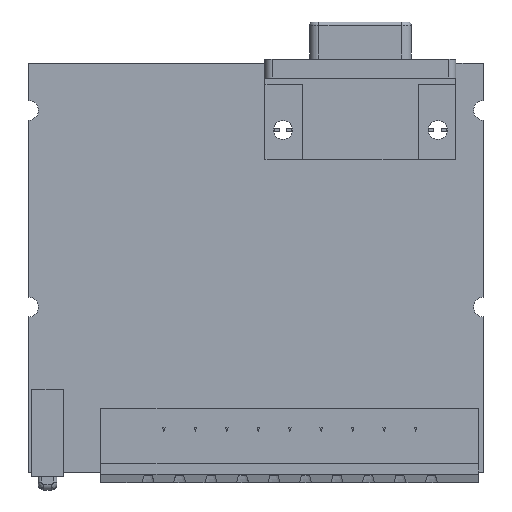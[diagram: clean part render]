
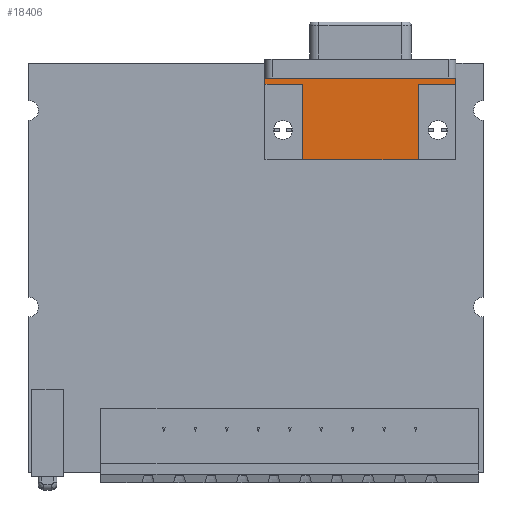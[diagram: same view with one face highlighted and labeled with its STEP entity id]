
A CAD part, top view. The second image highlights one B-rep face of the part: STEP entity #18406.
In plain terms, the highlighted planar face has unit normal (0, 0, 1).
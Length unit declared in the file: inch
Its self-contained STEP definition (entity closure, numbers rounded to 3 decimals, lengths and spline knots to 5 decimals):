
#4363=DIRECTION('',(0.,1.,0.));
#4364=VECTOR('',#4363,0.04);
#4365=CARTESIAN_POINT('',(1.27,1.165,0.476));
#4366=LINE('',#4365,#4364);
#4383=DIRECTION('',(-1.,0.,0.));
#4384=VECTOR('',#4383,0.733);
#4385=CARTESIAN_POINT('',(1.03,0.6865,0.476));
#4386=LINE('',#4385,#4384);
#4407=DIRECTION('',(0.,1.,0.));
#4408=VECTOR('',#4407,0.04);
#4409=CARTESIAN_POINT('',(0.057,1.165,0.476));
#4410=LINE('',#4409,#4408);
#4531=DIRECTION('',(0.,1.,0.));
#4532=VECTOR('',#4531,0.4785);
#4533=CARTESIAN_POINT('',(0.297,0.6865,0.476));
#4534=LINE('',#4533,#4532);
#4535=DIRECTION('',(1.,0.,0.));
#4536=VECTOR('',#4535,0.24);
#4537=CARTESIAN_POINT('',(0.057,1.165,0.476));
#4538=LINE('',#4537,#4536);
#4539=DIRECTION('',(-1.,0.,0.));
#4540=VECTOR('',#4539,1.213);
#4541=CARTESIAN_POINT('',(1.27,1.205,0.476));
#4542=LINE('',#4541,#4540);
#4543=DIRECTION('',(-1.,0.,0.));
#4544=VECTOR('',#4543,0.24);
#4545=CARTESIAN_POINT('',(1.27,1.165,0.476));
#4546=LINE('',#4545,#4544);
#4547=DIRECTION('',(0.,1.,0.));
#4548=VECTOR('',#4547,0.4785);
#4549=CARTESIAN_POINT('',(1.03,0.6865,0.476));
#4550=LINE('',#4549,#4548);
#9517=CARTESIAN_POINT('',(1.27,1.205,0.476));
#9518=CARTESIAN_POINT('',(0.057,1.205,0.476));
#9519=VERTEX_POINT('',#9517);
#9520=VERTEX_POINT('',#9518);
#9529=CARTESIAN_POINT('',(0.297,0.6865,0.476));
#9530=VERTEX_POINT('',#9529);
#9531=CARTESIAN_POINT('',(1.03,0.6865,0.476));
#9532=VERTEX_POINT('',#9531);
#9535=CARTESIAN_POINT('',(1.27,1.165,0.476));
#9536=VERTEX_POINT('',#9535);
#9539=CARTESIAN_POINT('',(0.057,1.165,0.476));
#9540=VERTEX_POINT('',#9539);
#9549=CARTESIAN_POINT('',(0.297,1.165,0.476));
#9550=VERTEX_POINT('',#9549);
#9551=CARTESIAN_POINT('',(1.03,1.165,0.476));
#9552=VERTEX_POINT('',#9551);
#18387=CARTESIAN_POINT('',(0.6635,1.325,0.476));
#18388=DIRECTION('',(0.,0.,1.));
#18389=DIRECTION('',(1.,0.,0.));
#18390=AXIS2_PLACEMENT_3D('',#18387,#18388,#18389);
#18391=PLANE('',#18390);
#18393=ORIENTED_EDGE('',*,*,#18392,.T.);
#18395=ORIENTED_EDGE('',*,*,#18394,.F.);
#18396=ORIENTED_EDGE('',*,*,#18274,.T.);
#18397=ORIENTED_EDGE('',*,*,#18381,.F.);
#18398=ORIENTED_EDGE('',*,*,#18227,.F.);
#18400=ORIENTED_EDGE('',*,*,#18399,.T.);
#18402=ORIENTED_EDGE('',*,*,#18401,.F.);
#18403=ORIENTED_EDGE('',*,*,#18251,.T.);
#18404=EDGE_LOOP('',(#18393,#18395,#18396,#18397,#18398,#18400,#18402,#18403));
#18405=FACE_OUTER_BOUND('',#18404,.F.);
#18406=ADVANCED_FACE('',(#18405),#18391,.T.);
#18227=EDGE_CURVE('',#9536,#9519,#4366,.T.);
#18251=EDGE_CURVE('',#9532,#9530,#4386,.T.);
#18274=EDGE_CURVE('',#9540,#9520,#4410,.T.);
#18381=EDGE_CURVE('',#9519,#9520,#4542,.T.);
#18392=EDGE_CURVE('',#9530,#9550,#4534,.T.);
#18394=EDGE_CURVE('',#9540,#9550,#4538,.T.);
#18399=EDGE_CURVE('',#9536,#9552,#4546,.T.);
#18401=EDGE_CURVE('',#9532,#9552,#4550,.T.);
